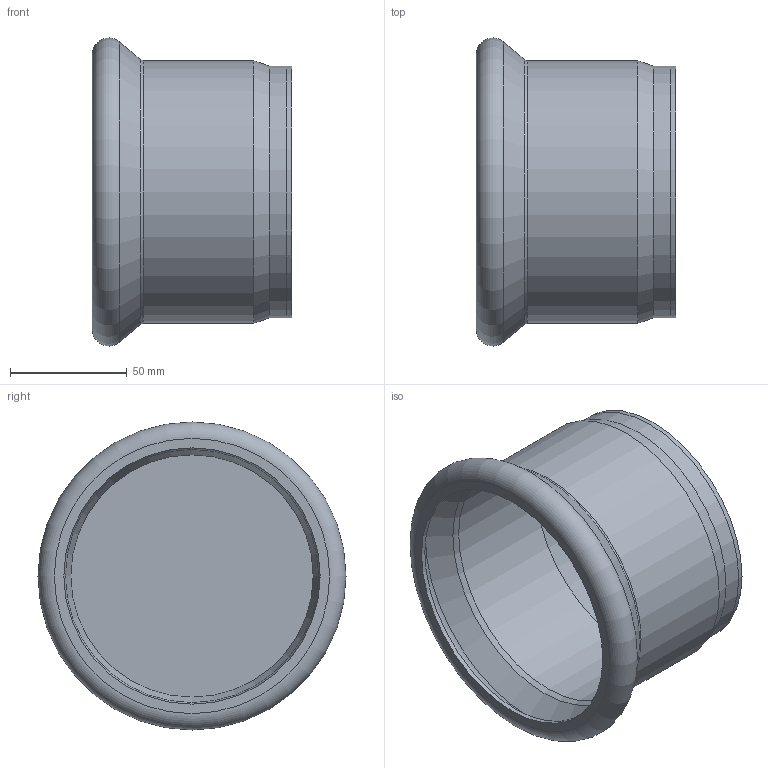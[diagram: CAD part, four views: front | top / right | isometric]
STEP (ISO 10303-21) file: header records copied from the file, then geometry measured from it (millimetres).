
FILE_DESCRIPTION((''),'2;1');
FILE_NAME('G:\Nirosan-Schmiedefeld\Technics\CAD\001 Serie 9.000\108\69301108(0).stp','2018-09-11T15:36:36',('herberg'),(''),'Autodesk Inventor 2009','Autodesk Inventor 2009','');
FILE_SCHEMA(('AUTOMOTIVE_DESIGN { 1 0 10303 214 1 1 1 1 }'));
Length unit declared in the file: millimetre
Products named in the file (3): 69301108(0); 69HM108P(0); D_69301108(0)
Assembly tree (2 placements, depth 2):
  69301108(0)
    69HM108P(0)
    D_69301108(0)
Bounding box: 85.5 x 132.2 x 132.2 mm (x, y, z)
Volume: 85336.6 mm3; surface area: 87377.1 mm2
Topology: 2 solids, 2 shells, 19 faces, 33 edges, 19 vertices
Faces by surface type: cylinder 6, plane 5, cone 4, torus 2, bspline 2
Full cylindrical faces by diameter (mm): 104 x1, 108 x2, 108.7 x1, 110 x1, 112.7 x1
Entity records: 547 total; most frequent: CARTESIAN_POINT 148, DIRECTION 80, AXIS2_PLACEMENT_3D 40, ORIENTED_EDGE 36, EDGE_LOOP 36, FACE_OUTER_BOUND 19, ADVANCED_FACE 19, VERTEX_POINT 18
